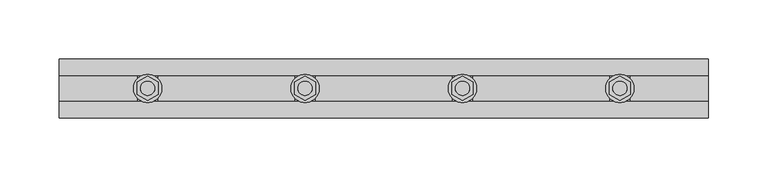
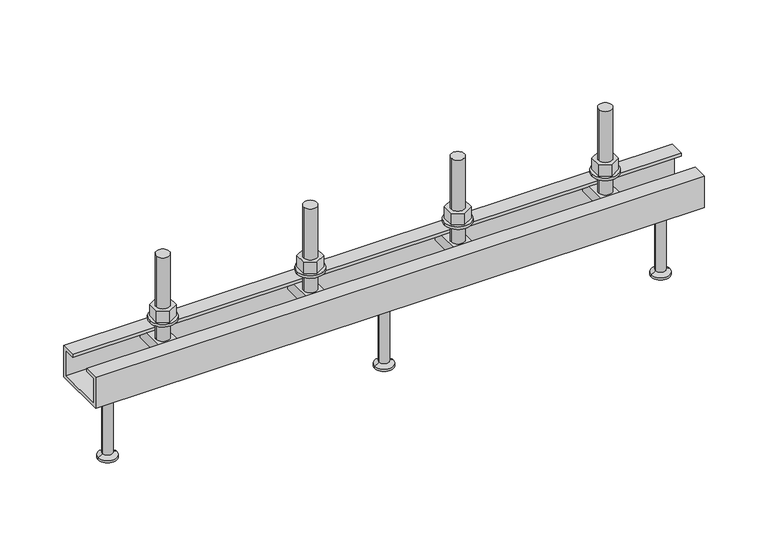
"""IFC4 building model written with IfcOpenShell, lengths in millimetres: fastener geometry, JTA-K JORDAHL® AnchorChannels : JTA-K L=550 mm."""

from ifc_helpers import new_model, si_unit, point, frame, frame_2d, origin, place, context, project, spatial, polyline, circle_curve, trimmed, segment, composite_curve, outline, extrude, source, transform, mapped, element, save
from ifc_brep_helpers import plane_surface, cylinder_surface, revolved_surface, advanced_brep


def fastener_4d64e47d(model_context):
    return source(origin(), model_context, "Body", "SolidModel", [
        extrude(outline(polyline([(341.6666667, -10.3923048), (332.6666667, -5.1961524), (332.6666667, 5.1961524), (341.6666667, 10.3923048), (350.6666667, 5.1961524), (350.6666667, -5.1961524), (341.6666667, -10.3923048)]), holes=[composite_curve([segment(trimmed(circle_curve(frame_2d((341.6666667, 0.0)), 6.0), [point((335.6666667, 0.0))], [point((347.6666667, 0.0))], True, "CARTESIAN"), True, "CONTINUOUS"), segment(trimmed(circle_curve(frame_2d((341.6666667, 0.0)), 6.0), [point((347.6666667, 0.0))], [point((335.6666667, 0.0))], True, "CARTESIAN"), True, "CONTINUOUS")], self_intersect=False)]), frame((0.0, 0.0, 17.5), z_axis=(0.0, 0.0, 1.0), x_axis=(1.0, 0.0, 0.0)), (0.0, 0.0, 1.0), 10.8),
        extrude(outline(composite_curve([segment(trimmed(circle_curve(frame_2d((341.6666667, 0.0)), 12.0), [point((329.6666667, 0.0))], [point((353.6666667, 0.0))], False, "CARTESIAN"), True, "CONTINUOUS"), segment(trimmed(circle_curve(frame_2d((341.6666667, 0.0)), 12.0), [point((353.6666667, 0.0))], [point((329.6666667, 0.0))], False, "CARTESIAN"), True, "CONTINUOUS")], self_intersect=False), holes=[composite_curve([segment(trimmed(circle_curve(frame_2d((341.6666667, 0.0)), 6.5), [point((335.1666667, 0.0))], [point((348.1666667, 0.0))], True, "CARTESIAN"), True, "CONTINUOUS"), segment(trimmed(circle_curve(frame_2d((341.6666667, 0.0)), 6.5), [point((348.1666667, 0.0))], [point((335.1666667, 0.0))], True, "CARTESIAN"), True, "CONTINUOUS")], self_intersect=False)]), frame((0.0, 0.0, 15.0), z_axis=(0.0, 0.0, 1.0), x_axis=(1.0, 0.0, 0.0)), (0.0, 0.0, 1.0), 2.5),
        extrude(outline(polyline([(208.3333333, -10.3923048), (199.3333333, -5.1961524), (199.3333333, 5.1961524), (208.3333333, 10.3923048), (217.3333333, 5.1961524), (217.3333333, -5.1961524), (208.3333333, -10.3923048)]), holes=[composite_curve([segment(trimmed(circle_curve(frame_2d((208.3333333, 0.0)), 6.0), [point((202.3333333, 0.0))], [point((214.3333333, 0.0))], True, "CARTESIAN"), True, "CONTINUOUS"), segment(trimmed(circle_curve(frame_2d((208.3333333, 0.0)), 6.0), [point((214.3333333, 0.0))], [point((202.3333333, 0.0))], True, "CARTESIAN"), True, "CONTINUOUS")], self_intersect=False)]), frame((0.0, 0.0, 17.5), z_axis=(0.0, 0.0, 1.0), x_axis=(1.0, 0.0, 0.0)), (0.0, 0.0, 1.0), 10.8),
        extrude(outline(composite_curve([segment(trimmed(circle_curve(frame_2d((208.3333333, 0.0)), 12.0), [point((196.3333333, 0.0))], [point((220.3333333, 0.0))], False, "CARTESIAN"), True, "CONTINUOUS"), segment(trimmed(circle_curve(frame_2d((208.3333333, 0.0)), 12.0), [point((220.3333333, 0.0))], [point((196.3333333, 0.0))], False, "CARTESIAN"), True, "CONTINUOUS")], self_intersect=False), holes=[composite_curve([segment(trimmed(circle_curve(frame_2d((208.3333333, 0.0)), 6.5), [point((201.8333333, 0.0))], [point((214.8333333, 0.0))], True, "CARTESIAN"), True, "CONTINUOUS"), segment(trimmed(circle_curve(frame_2d((208.3333333, 0.0)), 6.5), [point((214.8333333, 0.0))], [point((201.8333333, 0.0))], True, "CARTESIAN"), True, "CONTINUOUS")], self_intersect=False)]), frame((0.0, 0.0, 15.0), z_axis=(0.0, 0.0, 1.0), x_axis=(1.0, 0.0, 0.0)), (0.0, 0.0, 1.0), 2.5),
        advanced_brep(
        [(350.1666667, -20.7, -3.0), (350.1666667, -20.7, -13.0), (350.1666667, 20.7, -13.0), (350.1666667, 20.7, -3.0), (333.1666667, -20.7, -3.0), (333.1666667, 20.7, -3.0), (333.1666667, 20.7, -13.0), (333.1666667, -20.7, -13.0), (347.6666667, 0.0, -3.0), (335.6666667, 0.0, -3.0), (335.6666667, 0.0, 77.0), (347.6666667, 0.0, 77.0)],
        [
            (0, 1),
            (1, 2),
            (2, 3),
            (3, 0),
            (4, 5),
            (5, 6),
            (6, 7),
            (7, 4),
            (3, 5),
            (4, 0),
            (8, 9, circle_curve(frame((341.6666667, 0.0, -3.0), z_axis=(0.0, 0.0, -1.0), x_axis=(1.0, 0.0, 0.0)), 6.0)),
            (9, 8, circle_curve(frame((341.6666667, 0.0, -3.0), z_axis=(0.0, 0.0, -1.0), x_axis=(1.0, 0.0, 0.0)), 6.0)),
            (2, 6),
            (1, 7),
            (10, 11, circle_curve(frame((341.6666667, 0.0, 77.0), z_axis=(0.0, 0.0, 1.0), x_axis=(1.0, 0.0, 0.0)), 6.0)),
            (11, 10, circle_curve(frame((341.6666667, 0.0, 77.0), z_axis=(0.0, 0.0, 1.0), x_axis=(1.0, 0.0, 0.0)), 6.0)),
            (11, 8),
            (9, 10),
        ],
        [
            plane_surface(frame((350.1666667, 20.7, -3.0), z_axis=(1.0, 0.0, 0.0), x_axis=(0.0, 1.0, 0.0))),
            plane_surface(frame((333.1666667, 20.7, -3.0), z_axis=(-1.0, 0.0, 0.0), x_axis=(0.0, -1.0, 0.0))),
            plane_surface(frame((350.1666667, -20.7, -3.0), z_axis=(0.0, 0.0, 1.0), x_axis=(-1.0, 0.0, 0.0))),
            plane_surface(frame((350.1666667, 20.7, -3.0), z_axis=(0.0, 1.0, 0.0), x_axis=(-1.0, 0.0, 0.0))),
            plane_surface(frame((350.1666667, 20.7, -13.0), z_axis=(0.0, 0.0, -1.0), x_axis=(-1.0, 0.0, 0.0))),
            plane_surface(frame((350.1666667, -20.7, -13.0), z_axis=(0.0, -1.0, 0.0), x_axis=(-1.0, 0.0, 0.0))),
            plane_surface(frame((347.6666667, 0.0, 77.0), z_axis=(0.0, 0.0, 1.0), x_axis=(0.0, -1.0, 0.0))),
            cylinder_surface(frame((341.6666667, 0.0, -3.0), z_axis=(0.0, 0.0, 1.0), x_axis=(1.0, 0.0, 0.0)), 6.0),
        ],
        [
            (0, [[1, 2, 3, 4]]),
            (1, [[5, 6, 7, 8]]),
            (2, [[9, -5, 10, -4], [11, 12]]),
            (3, [[13, -6, -9, -3]]),
            (4, [[14, -7, -13, -2]]),
            (5, [[-10, -8, -14, -1]]),
            (6, [[15, 16]]),
            (7, [[17, -12, 18, -16]]),
            (7, [[-18, -11, -17, -15]]),
        ],
    ),
        advanced_brep(
        [(216.8333333, -20.7, -3.0), (216.8333333, -20.7, -13.0), (216.8333333, 20.7, -13.0), (216.8333333, 20.7, -3.0), (199.8333333, -20.7, -3.0), (199.8333333, 20.7, -3.0), (199.8333333, 20.7, -13.0), (199.8333333, -20.7, -13.0), (214.3333333, 0.0, -3.0), (202.3333333, 0.0, -3.0), (202.3333333, 0.0, 77.0), (214.3333333, 0.0, 77.0)],
        [
            (0, 1),
            (1, 2),
            (2, 3),
            (3, 0),
            (4, 5),
            (5, 6),
            (6, 7),
            (7, 4),
            (3, 5),
            (4, 0),
            (8, 9, circle_curve(frame((208.3333333, 0.0, -3.0), z_axis=(0.0, 0.0, -1.0), x_axis=(1.0, 0.0, 0.0)), 6.0)),
            (9, 8, circle_curve(frame((208.3333333, 0.0, -3.0), z_axis=(0.0, 0.0, -1.0), x_axis=(1.0, 0.0, 0.0)), 6.0)),
            (2, 6),
            (1, 7),
            (10, 11, circle_curve(frame((208.3333333, 0.0, 77.0), z_axis=(0.0, 0.0, 1.0), x_axis=(1.0, 0.0, 0.0)), 6.0)),
            (11, 10, circle_curve(frame((208.3333333, 0.0, 77.0), z_axis=(0.0, 0.0, 1.0), x_axis=(1.0, 0.0, 0.0)), 6.0)),
            (11, 8),
            (9, 10),
        ],
        [
            plane_surface(frame((216.8333333, 20.7, -3.0), z_axis=(1.0, 0.0, 0.0), x_axis=(0.0, 1.0, 0.0))),
            plane_surface(frame((199.8333333, 20.7, -3.0), z_axis=(-1.0, 0.0, 0.0), x_axis=(0.0, -1.0, 0.0))),
            plane_surface(frame((216.8333333, -20.7, -3.0), z_axis=(0.0, 0.0, 1.0), x_axis=(-1.0, 0.0, 0.0))),
            plane_surface(frame((216.8333333, 20.7, -3.0), z_axis=(0.0, 1.0, 0.0), x_axis=(-1.0, 0.0, 0.0))),
            plane_surface(frame((216.8333333, 20.7, -13.0), z_axis=(0.0, 0.0, -1.0), x_axis=(-1.0, 0.0, 0.0))),
            plane_surface(frame((216.8333333, -20.7, -13.0), z_axis=(0.0, -1.0, 0.0), x_axis=(-1.0, 0.0, 0.0))),
            plane_surface(frame((214.3333333, 0.0, 77.0), z_axis=(0.0, 0.0, 1.0), x_axis=(0.0, -1.0, 0.0))),
            cylinder_surface(frame((208.3333333, 0.0, -3.0), z_axis=(0.0, 0.0, 1.0), x_axis=(1.0, 0.0, 0.0)), 6.0),
        ],
        [
            (0, [[1, 2, 3, 4]]),
            (1, [[5, 6, 7, 8]]),
            (2, [[9, -5, 10, -4], [11, 12]]),
            (3, [[13, -6, -9, -3]]),
            (4, [[14, -7, -13, -2]]),
            (5, [[-10, -8, -14, -1]]),
            (6, [[15, 16]]),
            (7, [[17, -12, 18, -16]]),
            (7, [[-18, -11, -17, -15]]),
        ],
    ),
        advanced_brep(
        [(275.0, 0.0, -30.0), (261.5, 0.0, -30.0), (288.5, 0.0, -30.0), (266.5, 0.0, -100.0), (275.0, 0.0, -100.0), (283.5, 0.0, -100.0), (266.5, 0.0, -98.0), (283.5, 0.0, -98.0), (270.5, 0.0, -95.6905989), (279.5, 0.0, -95.6905989), (270.5, 0.0, -32.5), (279.5, 0.0, -32.5)],
        [
            (0, 1),
            (1, 2, circle_curve(frame((275.0, 0.0, -30.0), z_axis=(0.0, 0.0, 1.0), x_axis=(1.0, 0.0, 0.0)), 13.5)),
            (2, 0),
            (2, 1, circle_curve(frame((275.0, 0.0, -30.0), z_axis=(0.0, 0.0, 1.0), x_axis=(1.0, 0.0, 0.0)), 13.5)),
            (3, 4),
            (4, 5),
            (5, 3, circle_curve(frame((275.0, 0.0, -100.0), z_axis=(0.0, 0.0, -1.0), x_axis=(1.0, 0.0, 0.0)), 8.5)),
            (3, 5, circle_curve(frame((275.0, 0.0, -100.0), z_axis=(0.0, 0.0, -1.0), x_axis=(1.0, 0.0, 0.0)), 8.5)),
            (6, 3),
            (5, 7),
            (7, 6, circle_curve(frame((275.0, 0.0, -98.0), z_axis=(0.0, 0.0, -1.0), x_axis=(1.0, 0.0, 0.0)), 8.5)),
            (6, 7, circle_curve(frame((275.0, 0.0, -98.0), z_axis=(0.0, 0.0, -1.0), x_axis=(1.0, 0.0, 0.0)), 8.5)),
            (8, 6),
            (7, 9),
            (9, 8, circle_curve(frame((275.0, 0.0, -95.6905989), z_axis=(0.0, 0.0, -1.0), x_axis=(1.0, 0.0, 0.0)), 4.5)),
            (8, 9, circle_curve(frame((275.0, 0.0, -95.6905989), z_axis=(0.0, 0.0, -1.0), x_axis=(1.0, 0.0, 0.0)), 4.5)),
            (10, 8),
            (9, 11),
            (11, 10, circle_curve(frame((275.0, 0.0, -32.5), z_axis=(0.0, 0.0, -1.0), x_axis=(1.0, 0.0, 0.0)), 4.5)),
            (10, 11, circle_curve(frame((275.0, 0.0, -32.5), z_axis=(0.0, 0.0, -1.0), x_axis=(1.0, 0.0, 0.0)), 4.5)),
            (1, 10),
            (11, 2),
        ],
        [
            plane_surface(frame((275.0, 0.0, -30.0), z_axis=(0.0, 0.0, 1.0), x_axis=(1.0, 0.0, 0.0))),
            plane_surface(frame((275.0, 0.0, -100.0), z_axis=(0.0, 0.0, -1.0), x_axis=(1.0, 0.0, 0.0))),
            cylinder_surface(frame((275.0, 0.0, 2284.3150031), z_axis=(0.0, 0.0, 1.0), x_axis=(1.0, 0.0, 0.0)), 8.5),
            revolved_surface(polyline([(283.5, 0.0, -98.0), (279.5, 0.0, -95.6905989)]), (275.0, 0.0, 2284.3150031), (0.0, 0.0, 1.0)),
            cylinder_surface(frame((275.0, 0.0, 2284.3150031), z_axis=(0.0, 0.0, 1.0), x_axis=(1.0, 0.0, 0.0)), 4.5),
            revolved_surface(polyline([(279.5, 0.0, -32.5), (288.5, 0.0, -30.0)]), (275.0, 0.0, 2284.3150031), (0.0, 0.0, 1.0)),
        ],
        [
            (0, [[1, 2, 3]]),
            (0, [[-3, 4, -1]]),
            (1, [[5, 6, 7]]),
            (1, [[-6, -5, 8]]),
            (2, [[9, -7, 10, 11]]),
            (2, [[-10, -8, -9, 12]]),
            (3, [[13, -11, 14, 15]]),
            (3, [[-14, -12, -13, 16]]),
            (4, [[17, -15, 18, 19]]),
            (4, [[-18, -16, -17, 20]]),
            (5, [[21, -19, 22, -2]]),
            (5, [[-22, -20, -21, -4]]),
        ],
    ),
        extrude(outline(polyline([(475.0, -10.3923048), (466.0, -5.1961524), (466.0, 5.1961524), (475.0, 10.3923048), (484.0, 5.1961524), (484.0, -5.1961524), (475.0, -10.3923048)]), holes=[composite_curve([segment(trimmed(circle_curve(frame_2d((475.0, 0.0)), 6.0), [point((469.0, 0.0))], [point((481.0, 0.0))], True, "CARTESIAN"), True, "CONTINUOUS"), segment(trimmed(circle_curve(frame_2d((475.0, 0.0)), 6.0), [point((481.0, 0.0))], [point((469.0, 0.0))], True, "CARTESIAN"), True, "CONTINUOUS")], self_intersect=False)]), frame((0.0, 0.0, 17.5), z_axis=(0.0, 0.0, 1.0), x_axis=(1.0, 0.0, 0.0)), (0.0, 0.0, 1.0), 10.8),
        extrude(outline(composite_curve([segment(trimmed(circle_curve(frame_2d((475.0, 0.0)), 12.0), [point((463.0, 0.0))], [point((487.0, 0.0))], False, "CARTESIAN"), True, "CONTINUOUS"), segment(trimmed(circle_curve(frame_2d((475.0, 0.0)), 12.0), [point((487.0, 0.0))], [point((463.0, 0.0))], False, "CARTESIAN"), True, "CONTINUOUS")], self_intersect=False), holes=[composite_curve([segment(trimmed(circle_curve(frame_2d((475.0, 0.0)), 6.5), [point((468.5, 0.0))], [point((481.5, 0.0))], True, "CARTESIAN"), True, "CONTINUOUS"), segment(trimmed(circle_curve(frame_2d((475.0, 0.0)), 6.5), [point((481.5, 0.0))], [point((468.5, 0.0))], True, "CARTESIAN"), True, "CONTINUOUS")], self_intersect=False)]), frame((0.0, 0.0, 15.0), z_axis=(0.0, 0.0, 1.0), x_axis=(1.0, 0.0, 0.0)), (0.0, 0.0, 1.0), 2.5),
        extrude(outline(polyline([(75.0, -10.3923048), (66.0, -5.1961524), (66.0, 5.1961524), (75.0, 10.3923048), (84.0, 5.1961524), (84.0, -5.1961524), (75.0, -10.3923048)]), holes=[composite_curve([segment(trimmed(circle_curve(frame_2d((75.0, 0.0)), 6.0), [point((69.0, 0.0))], [point((81.0, 0.0))], True, "CARTESIAN"), True, "CONTINUOUS"), segment(trimmed(circle_curve(frame_2d((75.0, 0.0)), 6.0), [point((81.0, 0.0))], [point((69.0, 0.0))], True, "CARTESIAN"), True, "CONTINUOUS")], self_intersect=False)]), frame((0.0, 0.0, 17.5), z_axis=(0.0, 0.0, 1.0), x_axis=(1.0, 0.0, 0.0)), (0.0, 0.0, 1.0), 10.8),
        extrude(outline(composite_curve([segment(trimmed(circle_curve(frame_2d((75.0, 0.0)), 12.0), [point((63.0, 0.0))], [point((87.0, 0.0))], False, "CARTESIAN"), True, "CONTINUOUS"), segment(trimmed(circle_curve(frame_2d((75.0, 0.0)), 12.0), [point((87.0, 0.0))], [point((63.0, 0.0))], False, "CARTESIAN"), True, "CONTINUOUS")], self_intersect=False), holes=[composite_curve([segment(trimmed(circle_curve(frame_2d((75.0, 0.0)), 6.5), [point((68.5, 0.0))], [point((81.5, 0.0))], True, "CARTESIAN"), True, "CONTINUOUS"), segment(trimmed(circle_curve(frame_2d((75.0, 0.0)), 6.5), [point((81.5, 0.0))], [point((68.5, 0.0))], True, "CARTESIAN"), True, "CONTINUOUS")], self_intersect=False)]), frame((0.0, 0.0, 15.0), z_axis=(0.0, 0.0, 1.0), x_axis=(1.0, 0.0, 0.0)), (0.0, 0.0, 1.0), 2.5),
        advanced_brep(
        [(483.5, -20.7, -3.0), (483.5, -20.7, -13.0), (483.5, 20.7, -13.0), (483.5, 20.7, -3.0), (466.5, -20.7, -3.0), (466.5, 20.7, -3.0), (466.5, 20.7, -13.0), (466.5, -20.7, -13.0), (481.0, 0.0, -3.0), (469.0, 0.0, -3.0), (469.0, 0.0, 77.0), (481.0, 0.0, 77.0)],
        [
            (0, 1),
            (1, 2),
            (2, 3),
            (3, 0),
            (4, 5),
            (5, 6),
            (6, 7),
            (7, 4),
            (3, 5),
            (4, 0),
            (8, 9, circle_curve(frame((475.0, 0.0, -3.0), z_axis=(0.0, 0.0, -1.0), x_axis=(1.0, 0.0, 0.0)), 6.0)),
            (9, 8, circle_curve(frame((475.0, 0.0, -3.0), z_axis=(0.0, 0.0, -1.0), x_axis=(1.0, 0.0, 0.0)), 6.0)),
            (2, 6),
            (1, 7),
            (10, 11, circle_curve(frame((475.0, 0.0, 77.0), z_axis=(0.0, 0.0, 1.0), x_axis=(1.0, 0.0, 0.0)), 6.0)),
            (11, 10, circle_curve(frame((475.0, 0.0, 77.0), z_axis=(0.0, 0.0, 1.0), x_axis=(1.0, 0.0, 0.0)), 6.0)),
            (11, 8),
            (9, 10),
        ],
        [
            plane_surface(frame((483.5, 20.7, -3.0), z_axis=(1.0, 0.0, 0.0), x_axis=(0.0, 1.0, 0.0))),
            plane_surface(frame((466.5, 20.7, -3.0), z_axis=(-1.0, 0.0, 0.0), x_axis=(0.0, -1.0, 0.0))),
            plane_surface(frame((483.5, -20.7, -3.0), z_axis=(0.0, 0.0, 1.0), x_axis=(-1.0, 0.0, 0.0))),
            plane_surface(frame((483.5, 20.7, -3.0), z_axis=(0.0, 1.0, 0.0), x_axis=(-1.0, 0.0, 0.0))),
            plane_surface(frame((483.5, 20.7, -13.0), z_axis=(0.0, 0.0, -1.0), x_axis=(-1.0, 0.0, 0.0))),
            plane_surface(frame((483.5, -20.7, -13.0), z_axis=(0.0, -1.0, 0.0), x_axis=(-1.0, 0.0, 0.0))),
            plane_surface(frame((481.0, 0.0, 77.0), z_axis=(0.0, 0.0, 1.0), x_axis=(0.0, -1.0, 0.0))),
            cylinder_surface(frame((475.0, 0.0, -3.0), z_axis=(0.0, 0.0, 1.0), x_axis=(1.0, 0.0, 0.0)), 6.0),
        ],
        [
            (0, [[1, 2, 3, 4]]),
            (1, [[5, 6, 7, 8]]),
            (2, [[9, -5, 10, -4], [11, 12]]),
            (3, [[13, -6, -9, -3]]),
            (4, [[14, -7, -13, -2]]),
            (5, [[-10, -8, -14, -1]]),
            (6, [[15, 16]]),
            (7, [[17, -12, 18, -16]]),
            (7, [[-18, -11, -17, -15]]),
        ],
    ),
        advanced_brep(
        [(83.5, -20.7, -3.0), (83.5, -20.7, -13.0), (83.5, 20.7, -13.0), (83.5, 20.7, -3.0), (66.5, -20.7, -3.0), (66.5, 20.7, -3.0), (66.5, 20.7, -13.0), (66.5, -20.7, -13.0), (81.0, 0.0, -3.0), (69.0, 0.0, -3.0), (69.0, 0.0, 77.0), (81.0, 0.0, 77.0)],
        [
            (0, 1),
            (1, 2),
            (2, 3),
            (3, 0),
            (4, 5),
            (5, 6),
            (6, 7),
            (7, 4),
            (3, 5),
            (4, 0),
            (8, 9, circle_curve(frame((75.0, 0.0, -3.0), z_axis=(0.0, 0.0, -1.0), x_axis=(1.0, 0.0, 0.0)), 6.0)),
            (9, 8, circle_curve(frame((75.0, 0.0, -3.0), z_axis=(0.0, 0.0, -1.0), x_axis=(1.0, 0.0, 0.0)), 6.0)),
            (2, 6),
            (1, 7),
            (10, 11, circle_curve(frame((75.0, 0.0, 77.0), z_axis=(0.0, 0.0, 1.0), x_axis=(1.0, 0.0, 0.0)), 6.0)),
            (11, 10, circle_curve(frame((75.0, 0.0, 77.0), z_axis=(0.0, 0.0, 1.0), x_axis=(1.0, 0.0, 0.0)), 6.0)),
            (11, 8),
            (9, 10),
        ],
        [
            plane_surface(frame((83.5, 20.7, -3.0), z_axis=(1.0, 0.0, 0.0), x_axis=(0.0, 1.0, 0.0))),
            plane_surface(frame((66.5, 20.7, -3.0), z_axis=(-1.0, 0.0, 0.0), x_axis=(0.0, -1.0, 0.0))),
            plane_surface(frame((83.5, -20.7, -3.0), z_axis=(0.0, 0.0, 1.0), x_axis=(-1.0, 0.0, 0.0))),
            plane_surface(frame((83.5, 20.7, -3.0), z_axis=(0.0, 1.0, 0.0), x_axis=(-1.0, 0.0, 0.0))),
            plane_surface(frame((83.5, 20.7, -13.0), z_axis=(0.0, 0.0, -1.0), x_axis=(-1.0, 0.0, 0.0))),
            plane_surface(frame((83.5, -20.7, -13.0), z_axis=(0.0, -1.0, 0.0), x_axis=(-1.0, 0.0, 0.0))),
            plane_surface(frame((81.0, 0.0, 77.0), z_axis=(0.0, 0.0, 1.0), x_axis=(0.0, -1.0, 0.0))),
            cylinder_surface(frame((75.0, 0.0, -3.0), z_axis=(0.0, 0.0, 1.0), x_axis=(1.0, 0.0, 0.0)), 6.0),
        ],
        [
            (0, [[1, 2, 3, 4]]),
            (1, [[5, 6, 7, 8]]),
            (2, [[9, -5, 10, -4], [11, 12]]),
            (3, [[13, -6, -9, -3]]),
            (4, [[14, -7, -13, -2]]),
            (5, [[-10, -8, -14, -1]]),
            (6, [[15, 16]]),
            (7, [[17, -12, 18, -16]]),
            (7, [[-18, -11, -17, -15]]),
        ],
    ),
        advanced_brep(
        [(525.0, 0.0, -30.0), (511.5, 0.0, -30.0), (538.5, 0.0, -30.0), (516.5, 0.0, -100.0), (525.0, 0.0, -100.0), (533.5, 0.0, -100.0), (516.5, 0.0, -98.0), (533.5, 0.0, -98.0), (520.5, 0.0, -95.6905989), (529.5, 0.0, -95.6905989), (520.5, 0.0, -32.5), (529.5, 0.0, -32.5)],
        [
            (0, 1),
            (1, 2, circle_curve(frame((525.0, 0.0, -30.0), z_axis=(0.0, 0.0, 1.0), x_axis=(1.0, 0.0, 0.0)), 13.5)),
            (2, 0),
            (2, 1, circle_curve(frame((525.0, 0.0, -30.0), z_axis=(0.0, 0.0, 1.0), x_axis=(1.0, 0.0, 0.0)), 13.5)),
            (3, 4),
            (4, 5),
            (5, 3, circle_curve(frame((525.0, 0.0, -100.0), z_axis=(0.0, 0.0, -1.0), x_axis=(1.0, 0.0, 0.0)), 8.5)),
            (3, 5, circle_curve(frame((525.0, 0.0, -100.0), z_axis=(0.0, 0.0, -1.0), x_axis=(1.0, 0.0, 0.0)), 8.5)),
            (6, 3),
            (5, 7),
            (7, 6, circle_curve(frame((525.0, 0.0, -98.0), z_axis=(0.0, 0.0, -1.0), x_axis=(1.0, 0.0, 0.0)), 8.5)),
            (6, 7, circle_curve(frame((525.0, 0.0, -98.0), z_axis=(0.0, 0.0, -1.0), x_axis=(1.0, 0.0, 0.0)), 8.5)),
            (8, 6),
            (7, 9),
            (9, 8, circle_curve(frame((525.0, 0.0, -95.6905989), z_axis=(0.0, 0.0, -1.0), x_axis=(1.0, 0.0, 0.0)), 4.5)),
            (8, 9, circle_curve(frame((525.0, 0.0, -95.6905989), z_axis=(0.0, 0.0, -1.0), x_axis=(1.0, 0.0, 0.0)), 4.5)),
            (10, 8),
            (9, 11),
            (11, 10, circle_curve(frame((525.0, 0.0, -32.5), z_axis=(0.0, 0.0, -1.0), x_axis=(1.0, 0.0, 0.0)), 4.5)),
            (10, 11, circle_curve(frame((525.0, 0.0, -32.5), z_axis=(0.0, 0.0, -1.0), x_axis=(1.0, 0.0, 0.0)), 4.5)),
            (1, 10),
            (11, 2),
        ],
        [
            plane_surface(frame((525.0, 0.0, -30.0), z_axis=(0.0, 0.0, 1.0), x_axis=(1.0, 0.0, 0.0))),
            plane_surface(frame((525.0, 0.0, -100.0), z_axis=(0.0, 0.0, -1.0), x_axis=(1.0, 0.0, 0.0))),
            cylinder_surface(frame((525.0, 0.0, 2284.3150031), z_axis=(0.0, 0.0, 1.0), x_axis=(1.0, 0.0, 0.0)), 8.5),
            revolved_surface(polyline([(533.5, 0.0, -98.0), (529.5, 0.0, -95.6905989)]), (525.0, 0.0, 2284.3150031), (0.0, 0.0, 1.0)),
            cylinder_surface(frame((525.0, 0.0, 2284.3150031), z_axis=(0.0, 0.0, 1.0), x_axis=(1.0, 0.0, 0.0)), 4.5),
            revolved_surface(polyline([(529.5, 0.0, -32.5), (538.5, 0.0, -30.0)]), (525.0, 0.0, 2284.3150031), (0.0, 0.0, 1.0)),
        ],
        [
            (0, [[1, 2, 3]]),
            (0, [[-3, 4, -1]]),
            (1, [[5, 6, 7]]),
            (1, [[-6, -5, 8]]),
            (2, [[9, -7, 10, 11]]),
            (2, [[-10, -8, -9, 12]]),
            (3, [[13, -11, 14, 15]]),
            (3, [[-14, -12, -13, 16]]),
            (4, [[17, -15, 18, 19]]),
            (4, [[-18, -16, -17, 20]]),
            (5, [[21, -19, 22, -2]]),
            (5, [[-22, -20, -21, -4]]),
        ],
    ),
        advanced_brep(
        [(25.0, 0.0, -30.0), (11.5, 0.0, -30.0), (38.5, 0.0, -30.0), (16.5, 0.0, -100.0), (25.0, 0.0, -100.0), (33.5, 0.0, -100.0), (16.5, 0.0, -98.0), (33.5, 0.0, -98.0), (20.5, 0.0, -95.6905989), (29.5, 0.0, -95.6905989), (20.5, 0.0, -32.5), (29.5, 0.0, -32.5)],
        [
            (0, 1),
            (1, 2, circle_curve(frame((25.0, 0.0, -30.0), z_axis=(0.0, 0.0, 1.0), x_axis=(1.0, 0.0, 0.0)), 13.5)),
            (2, 0),
            (2, 1, circle_curve(frame((25.0, 0.0, -30.0), z_axis=(0.0, 0.0, 1.0), x_axis=(1.0, 0.0, 0.0)), 13.5)),
            (3, 4),
            (4, 5),
            (5, 3, circle_curve(frame((25.0, 0.0, -100.0), z_axis=(0.0, 0.0, -1.0), x_axis=(1.0, 0.0, 0.0)), 8.5)),
            (3, 5, circle_curve(frame((25.0, 0.0, -100.0), z_axis=(0.0, 0.0, -1.0), x_axis=(1.0, 0.0, 0.0)), 8.5)),
            (6, 3),
            (5, 7),
            (7, 6, circle_curve(frame((25.0, 0.0, -98.0), z_axis=(0.0, 0.0, -1.0), x_axis=(1.0, 0.0, 0.0)), 8.5)),
            (6, 7, circle_curve(frame((25.0, 0.0, -98.0), z_axis=(0.0, 0.0, -1.0), x_axis=(1.0, 0.0, 0.0)), 8.5)),
            (8, 6),
            (7, 9),
            (9, 8, circle_curve(frame((25.0, 0.0, -95.6905989), z_axis=(0.0, 0.0, -1.0), x_axis=(1.0, 0.0, 0.0)), 4.5)),
            (8, 9, circle_curve(frame((25.0, 0.0, -95.6905989), z_axis=(0.0, 0.0, -1.0), x_axis=(1.0, 0.0, 0.0)), 4.5)),
            (10, 8),
            (9, 11),
            (11, 10, circle_curve(frame((25.0, 0.0, -32.5), z_axis=(0.0, 0.0, -1.0), x_axis=(1.0, 0.0, 0.0)), 4.5)),
            (10, 11, circle_curve(frame((25.0, 0.0, -32.5), z_axis=(0.0, 0.0, -1.0), x_axis=(1.0, 0.0, 0.0)), 4.5)),
            (1, 10),
            (11, 2),
        ],
        [
            plane_surface(frame((25.0, 0.0, -30.0), z_axis=(0.0, 0.0, 1.0), x_axis=(1.0, 0.0, 0.0))),
            plane_surface(frame((25.0, 0.0, -100.0), z_axis=(0.0, 0.0, -1.0), x_axis=(1.0, 0.0, 0.0))),
            cylinder_surface(frame((25.0, 0.0, 2284.3150031), z_axis=(0.0, 0.0, 1.0), x_axis=(1.0, 0.0, 0.0)), 8.5),
            revolved_surface(polyline([(33.5, 0.0, -98.0), (29.5, 0.0, -95.6905989)]), (25.0, 0.0, 2284.3150031), (0.0, 0.0, 1.0)),
            cylinder_surface(frame((25.0, 0.0, 2284.3150031), z_axis=(0.0, 0.0, 1.0), x_axis=(1.0, 0.0, 0.0)), 4.5),
            revolved_surface(polyline([(29.5, 0.0, -32.5), (38.5, 0.0, -30.0)]), (25.0, 0.0, 2284.3150031), (0.0, 0.0, 1.0)),
        ],
        [
            (0, [[1, 2, 3]]),
            (0, [[-3, 4, -1]]),
            (1, [[5, 6, 7]]),
            (1, [[-6, -5, 8]]),
            (2, [[9, -7, 10, 11]]),
            (2, [[-10, -8, -9, 12]]),
            (3, [[13, -11, 14, 15]]),
            (3, [[-14, -12, -13, 16]]),
            (4, [[17, -15, 18, 19]]),
            (4, [[-18, -16, -17, 20]]),
            (5, [[21, -19, 22, -2]]),
            (5, [[-22, -20, -21, -4]]),
        ],
    ),
        extrude(outline(polyline([(-25.0, 0.0), (-11.0, 0.0), (-11.0, -3.0), (-22.0, -3.0), (-22.0, -27.0), (22.0, -27.0), (22.0, -3.0), (11.0, -3.0), (11.0, 0.0), (25.0, 0.0), (25.0, -30.0), (-25.0, -30.0), (-25.0, 0.0)])), frame((0.0, 0.0, 0.0), z_axis=(1.0, 0.0, 0.0), x_axis=(0.0, 1.0, 0.0)), (0.0, 0.0, 1.0), 550.0),
    ])


if __name__ == "__main__":
    model = new_model("IFC4")
    model_context = context("Model", 3, world=origin())
    ifc_project = project(units=[si_unit("LENGTHUNIT", "METRE", prefix="MILLI")], contexts=[model_context])
    site = spatial("IfcSite", under=ifc_project)
    building = spatial("IfcBuilding", under=site)
    placement = place(None, origin())
    fastener_shape = fastener_4d64e47d(model_context)
    element("IfcFastener", 1, ObjectType="JTA-K JORDAHL® AnchorChannels : JTA-K L=550 mm", at=placement, inside=building, context=model_context, shape_type="MappedRepresentation", body=[
        mapped(fastener_shape, transform((0.0, 0.0, 0.0), x_axis=(1.0, 0.0, 0.0), y_axis=(0.0, 1.0, 0.0), z_axis=(0.0, 0.0, 1.0))),
    ])
    save(model, "model.ifc")
